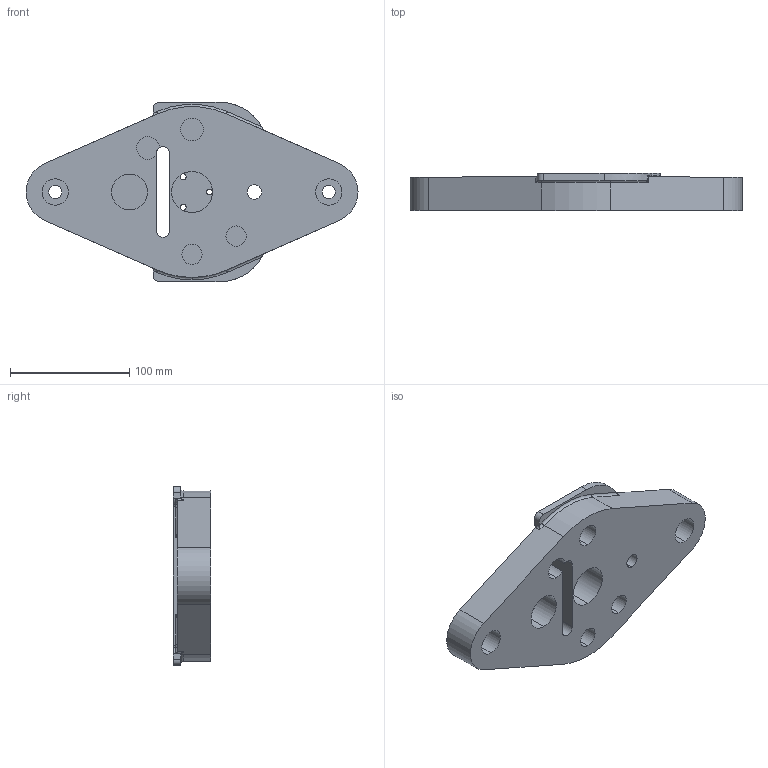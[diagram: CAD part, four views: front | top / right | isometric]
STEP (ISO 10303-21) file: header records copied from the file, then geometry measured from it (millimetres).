
FILE_DESCRIPTION (( 'STEP AP203' ), '1' );
FILE_NAME ('24à.STEP', '2025-02-10T09:11:49', ( '' ), ( '' ), 'SwSTEP 2.0', 'SolidWorks 2021', '' );
FILE_SCHEMA (( 'CONFIG_CONTROL_DESIGN' ));
Length unit declared in the file: millimetre
Products named in the file (1): 24à
Bounding box: 278 x 31 x 150 mm (x, y, z)
Volume: 664355.3 mm3; surface area: 89911.8 mm2
Topology: 1 solids, 1 shells, 96 faces, 255 edges, 164 vertices
Faces by surface type: cylinder 60, plane 28, torus 8
Entity records: 3192 total; most frequent: CARTESIAN_POINT 642, DIRECTION 545, ORIENTED_EDGE 510, EDGE_CURVE 255, AXIS2_PLACEMENT_3D 215, VERTEX_POINT 164, CIRCLE 118, LINE 115
